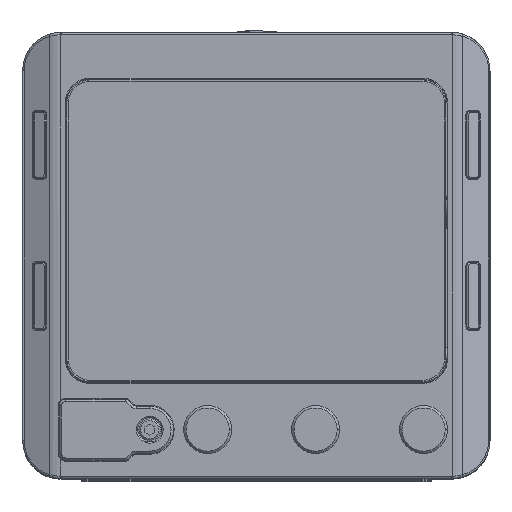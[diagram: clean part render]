
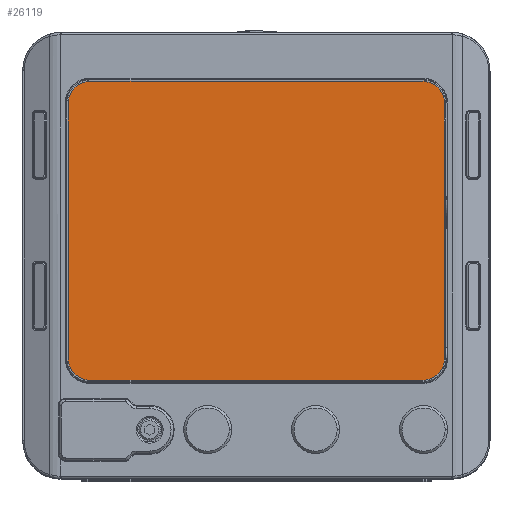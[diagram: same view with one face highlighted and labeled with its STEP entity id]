
A CAD part, top view. The second image highlights one B-rep face of the part: STEP entity #26119.
In plain terms, the highlighted planar face has unit normal (0, 0, 1).
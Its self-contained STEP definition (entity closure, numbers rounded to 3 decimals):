
#213 = VECTOR ( 'NONE', #20252, 1000. ) ;
#518 = CARTESIAN_POINT ( 'NONE',  ( 39.2, 34.09, 42.765 ) ) ;
#1557 = VECTOR ( 'NONE', #3223, 1000. ) ;
#1652 = DIRECTION ( 'NONE',  ( 0., 0., 1. ) ) ;
#1682 = EDGE_CURVE ( 'NONE', #13958, #15486, #3656, .T. ) ;
#2125 = EDGE_CURVE ( 'NONE', #11494, #24227, #19523, .T. ) ;
#2197 = VECTOR ( 'NONE', #26799, 1000. ) ;
#3105 = CARTESIAN_POINT ( 'NONE',  ( -39.2, -23.71, 42.765 ) ) ;
#3223 = DIRECTION ( 'NONE',  ( 0., -1., 0. ) ) ;
#3231 = DIRECTION ( 'NONE',  ( 0., 1., 0. ) ) ;
#3243 = DIRECTION ( 'NONE',  ( 1., 0., 0. ) ) ;
#3656 = LINE ( 'NONE', #28846, #2197 ) ;
#3812 = LINE ( 'NONE', #29377, #213 ) ;
#4036 = DIRECTION ( 'NONE',  ( 1., 0., 0. ) ) ;
#4502 = CARTESIAN_POINT ( 'NONE',  ( 39.2, -23.71, 42.765 ) ) ;
#4995 = CIRCLE ( 'NONE', #8100, 4.5 ) ;
#5296 = AXIS2_PLACEMENT_3D ( 'NONE', #17488, #1652, #24523 ) ;
#6823 = AXIS2_PLACEMENT_3D ( 'NONE', #20306, #22685, #4036 ) ;
#7624 = PLANE ( 'NONE',  #8867 ) ;
#7730 = CARTESIAN_POINT ( 'NONE',  ( -39.2, -28.21, 42.765 ) ) ;
#8100 = AXIS2_PLACEMENT_3D ( 'NONE', #21065, #23380, #13825 ) ;
#8249 = EDGE_CURVE ( 'NONE', #25089, #23711, #4995, .T. ) ;
#8661 = CARTESIAN_POINT ( 'NONE',  ( 34.7, 34.09, 42.765 ) ) ;
#8822 = DIRECTION ( 'NONE',  ( 0., 0., 1. ) ) ;
#8867 = AXIS2_PLACEMENT_3D ( 'NONE', #7730, #14816, #3243 ) ;
#9964 = CARTESIAN_POINT ( 'NONE',  ( -34.7, 34.09, 42.765 ) ) ;
#10280 = ORIENTED_EDGE ( 'NONE', *, *, #23715, .T. ) ;
#10861 = DIRECTION ( 'NONE',  ( 1., 0., 0. ) ) ;
#11281 = ORIENTED_EDGE ( 'NONE', *, *, #23356, .T. ) ;
#11494 = VERTEX_POINT ( 'NONE', #27943 ) ;
#11888 = ORIENTED_EDGE ( 'NONE', *, *, #2125, .T. ) ;
#12341 = ORIENTED_EDGE ( 'NONE', *, *, #24155, .T. ) ;
#12470 = CARTESIAN_POINT ( 'NONE',  ( -39.2, 34.09, 42.765 ) ) ;
#13825 = DIRECTION ( 'NONE',  ( 1., 0., 0. ) ) ;
#13958 = VERTEX_POINT ( 'NONE', #22540 ) ;
#14816 = DIRECTION ( 'NONE',  ( 0., 0., 1. ) ) ;
#15424 = ORIENTED_EDGE ( 'NONE', *, *, #8249, .T. ) ;
#15486 = VERTEX_POINT ( 'NONE', #20139 ) ;
#16268 = EDGE_CURVE ( 'NONE', #21798, #11494, #21787, .T. ) ;
#17313 = ORIENTED_EDGE ( 'NONE', *, *, #1682, .T. ) ;
#17488 = CARTESIAN_POINT ( 'NONE',  ( -34.7, -23.71, 42.765 ) ) ;
#19413 = FACE_OUTER_BOUND ( 'NONE', #28768, .T. ) ;
#19523 = CIRCLE ( 'NONE', #6823, 4.5 ) ;
#20139 = CARTESIAN_POINT ( 'NONE',  ( 34.7, -28.21, 42.765 ) ) ;
#20252 = DIRECTION ( 'NONE',  ( -1., 0., 0. ) ) ;
#20306 = CARTESIAN_POINT ( 'NONE',  ( 34.7, 29.59, 42.765 ) ) ;
#21065 = CARTESIAN_POINT ( 'NONE',  ( -34.7, 29.59, 42.765 ) ) ;
#21787 = LINE ( 'NONE', #518, #28622 ) ;
#21798 = VERTEX_POINT ( 'NONE', #4502 ) ;
#22159 = CIRCLE ( 'NONE', #5296, 4.5 ) ;
#22498 = VERTEX_POINT ( 'NONE', #3105 ) ;
#22540 = CARTESIAN_POINT ( 'NONE',  ( -34.7, -28.21, 42.765 ) ) ;
#22685 = DIRECTION ( 'NONE',  ( 0., 0., 1. ) ) ;
#22774 = EDGE_CURVE ( 'NONE', #24227, #25089, #3812, .T. ) ;
#23281 = LINE ( 'NONE', #12470, #1557 ) ;
#23356 = EDGE_CURVE ( 'NONE', #15486, #21798, #27942, .T. ) ;
#23380 = DIRECTION ( 'NONE',  ( 0., 0., 1. ) ) ;
#23711 = VERTEX_POINT ( 'NONE', #28777 ) ;
#23715 = EDGE_CURVE ( 'NONE', #23711, #22498, #23281, .T. ) ;
#24155 = EDGE_CURVE ( 'NONE', #22498, #13958, #22159, .T. ) ;
#24192 = ORIENTED_EDGE ( 'NONE', *, *, #16268, .T. ) ;
#24227 = VERTEX_POINT ( 'NONE', #8661 ) ;
#24523 = DIRECTION ( 'NONE',  ( 1., 0., 0. ) ) ;
#24634 = AXIS2_PLACEMENT_3D ( 'NONE', #24878, #8822, #10861 ) ;
#24878 = CARTESIAN_POINT ( 'NONE',  ( 34.7, -23.71, 42.765 ) ) ;
#25089 = VERTEX_POINT ( 'NONE', #9964 ) ;
#26119 = ADVANCED_FACE ( 'NONE', ( #19413 ), #7624, .T. ) ;
#26799 = DIRECTION ( 'NONE',  ( 1., 0., 0. ) ) ;
#27942 = CIRCLE ( 'NONE', #24634, 4.5 ) ;
#27943 = CARTESIAN_POINT ( 'NONE',  ( 39.2, 29.59, 42.765 ) ) ;
#28622 = VECTOR ( 'NONE', #3231, 1000. ) ;
#28768 = EDGE_LOOP ( 'NONE', ( #10280, #12341, #17313, #11281, #24192, #11888, #29663, #15424 ) ) ;
#28777 = CARTESIAN_POINT ( 'NONE',  ( -39.2, 29.59, 42.765 ) ) ;
#28846 = CARTESIAN_POINT ( 'NONE',  ( -39.2, -28.21, 42.765 ) ) ;
#29377 = CARTESIAN_POINT ( 'NONE',  ( -39.2, 34.09, 42.765 ) ) ;
#29663 = ORIENTED_EDGE ( 'NONE', *, *, #22774, .T. ) ;
